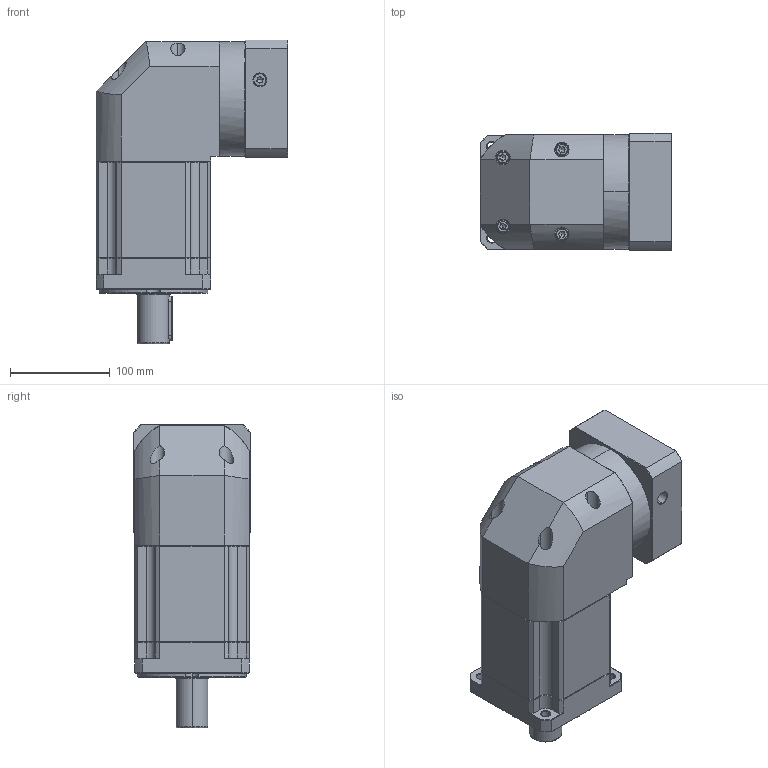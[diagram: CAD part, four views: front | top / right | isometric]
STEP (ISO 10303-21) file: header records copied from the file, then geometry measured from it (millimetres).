
FILE_DESCRIPTION (( 'STEP AP214' ), '1' );
FILE_NAME ('ZBR115A-D32-L3-P2-24-95-130-M8.step', '2023-08-26T12:41:17', ( '' ), ( '' ), 'SwSTEP 2.0', 'SolidWorks 2016', '' );
FILE_SCHEMA (( 'AUTOMOTIVE_DESIGN' ));
Length unit declared in the file: millimetre
Products named in the file (1): ZBR115A-D32-L3-P2-24-95-130-M8
Bounding box: 192.4 x 118 x 305 mm (x, y, z)
Volume: 3632584.3 mm3; surface area: 271665.4 mm2
Topology: 6 solids, 6 shells, 2380 faces, 6243 edges, 3967 vertices
Faces by surface type: plane 1139, cylinder 439, bspline 424, cone 370, torus 8
Entity records: 128382 total; most frequent: CARTESIAN_POINT 47176, ORIENTED_EDGE 12426, DIRECTION 9802, EDGE_CURVE 6213, VECTOR 3992, LINE 3992, VERTEX_POINT 3967, AXIS2_PLACEMENT_3D 2905
